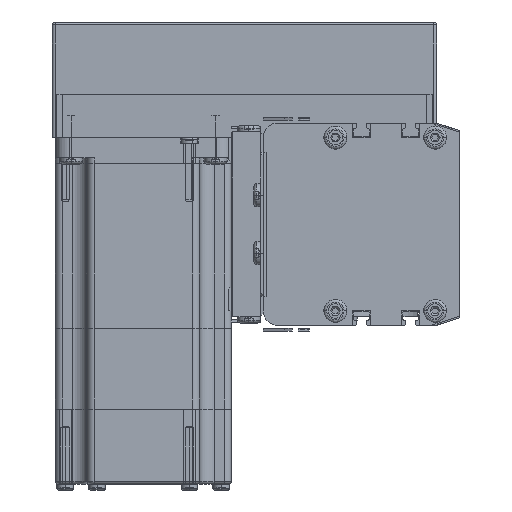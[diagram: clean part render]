
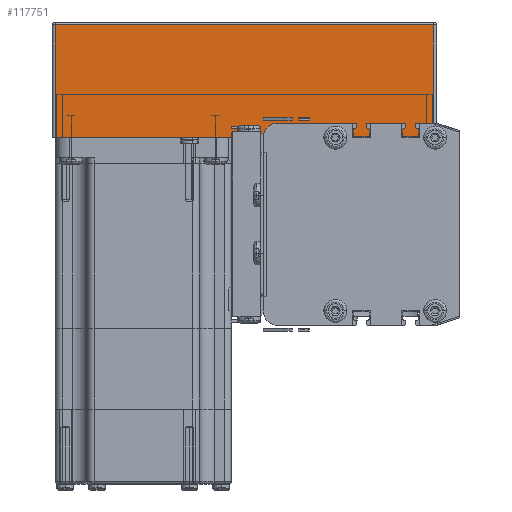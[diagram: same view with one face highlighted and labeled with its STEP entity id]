
A CAD part, left-side view. The second image highlights one B-rep face of the part: STEP entity #117751.
In plain terms, the highlighted planar face has unit normal (-1, 0, 0) as drawn and (0, -1, 0) by its records, which use the part's own axes.
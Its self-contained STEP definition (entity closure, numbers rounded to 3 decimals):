
#25334 = PLANE ( 'NONE',  #25449 ) ;
#25381 = CARTESIAN_POINT ( 'NONE',  ( 1., 0., 39. ) ) ;
#25449 = AXIS2_PLACEMENT_3D ( 'NONE', #25540, #25538, #25566 ) ;
#25465 = FACE_OUTER_BOUND ( 'NONE', #118142, .T. ) ;
#25538 = DIRECTION ( 'NONE',  ( 0., 1., 0. ) ) ;
#25540 = CARTESIAN_POINT ( 'NONE',  ( 0., 0., 40. ) ) ;
#25558 = CARTESIAN_POINT ( 'NONE',  ( 132., 0., 39. ) ) ;
#25566 = DIRECTION ( 'NONE',  ( 0., 0., 1. ) ) ;
#35101 = DIRECTION ( 'NONE',  ( -1., 0., 0. ) ) ;
#35105 = VECTOR ( 'NONE', #35101, 1000. ) ;
#35106 = CARTESIAN_POINT ( 'NONE',  ( 0., 0., 39. ) ) ;
#35110 = LINE ( 'NONE', #35106, #35105 ) ;
#36007 = CARTESIAN_POINT ( 'NONE',  ( 132., 0., 0. ) ) ;
#36390 = CARTESIAN_POINT ( 'NONE',  ( 1., 0., 0. ) ) ;
#36401 = CARTESIAN_POINT ( 'NONE',  ( 0., 0., 0. ) ) ;
#36402 = LINE ( 'NONE', #36401, #36407 ) ;
#36407 = VECTOR ( 'NONE', #36499, 1000. ) ;
#36499 = DIRECTION ( 'NONE',  ( 1., 0., 0. ) ) ;
#117588 = ORIENTED_EDGE ( 'NONE', *, *, #118027, .T. ) ;
#117748 = VERTEX_POINT ( 'NONE', #25558 ) ;
#117749 = VERTEX_POINT ( 'NONE', #25381 ) ;
#117751 = ADVANCED_FACE ( 'NONE', ( #25465 ), #25334, .F. ) ;
#118027 = EDGE_CURVE ( 'NONE', #117748, #117749, #35110, .T. ) ;
#118142 = EDGE_LOOP ( 'NONE', ( #117588, #118997, #118916, #118583 ) ) ;
#118287 = VERTEX_POINT ( 'NONE', #36007 ) ;
#118353 = EDGE_CURVE ( 'NONE', #118357, #118287, #36402, .T. ) ;
#118357 = VERTEX_POINT ( 'NONE', #36390 ) ;
#118581 = EDGE_CURVE ( 'NONE', #117749, #118357, #129923, .T. ) ;
#118583 = ORIENTED_EDGE ( 'NONE', *, *, #118589, .T. ) ;
#118589 = EDGE_CURVE ( 'NONE', #118287, #117748, #129881, .T. ) ;
#118916 = ORIENTED_EDGE ( 'NONE', *, *, #118353, .T. ) ;
#118997 = ORIENTED_EDGE ( 'NONE', *, *, #118581, .T. ) ;
#129876 = DIRECTION ( 'NONE',  ( 0., 0., 1. ) ) ;
#129878 = VECTOR ( 'NONE', #129876, 1000. ) ;
#129879 = CARTESIAN_POINT ( 'NONE',  ( 132., 0., 40. ) ) ;
#129881 = LINE ( 'NONE', #129879, #129878 ) ;
#129918 = DIRECTION ( 'NONE',  ( 0., 0., -1. ) ) ;
#129919 = VECTOR ( 'NONE', #129918, 1000. ) ;
#129921 = CARTESIAN_POINT ( 'NONE',  ( 1., 0., 40. ) ) ;
#129923 = LINE ( 'NONE', #129921, #129919 ) ;
